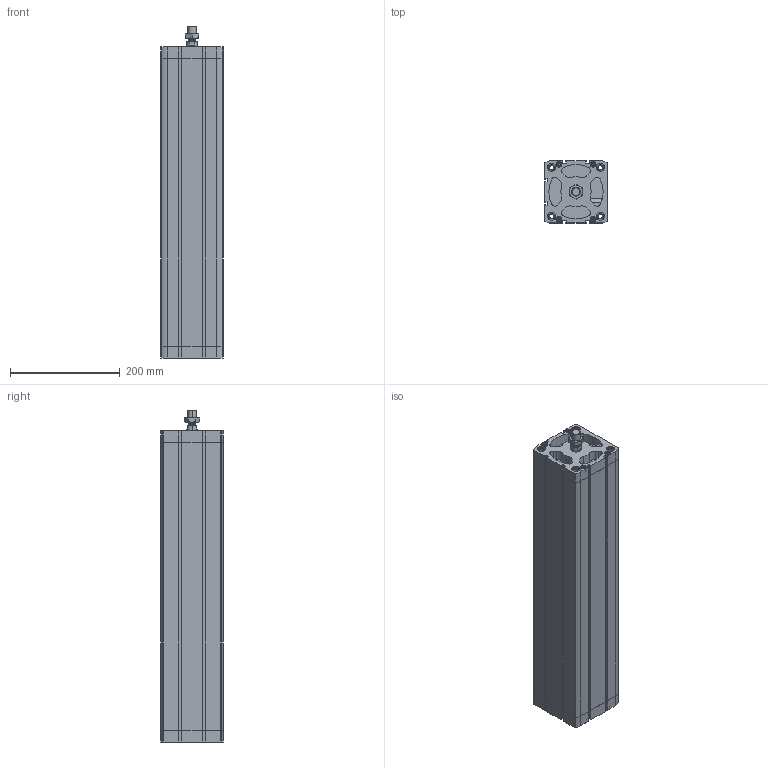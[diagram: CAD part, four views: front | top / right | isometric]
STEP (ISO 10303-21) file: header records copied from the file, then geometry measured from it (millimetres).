
FILE_DESCRIPTION (( 'STEP AP203' ), '1' );
FILE_NAME ('CCN100-500M.STEP', '2020-06-05T18:11:10', ( '' ), ( '' ), 'SwSTEP 2.0', 'SolidWorks 2019', '' );
FILE_SCHEMA (( 'CONFIG_CONTROL_DESIGN' ));
Length unit declared in the file: millimetre
Products named in the file (1): CCN100-500M
Bounding box: 113.5 x 113.5 x 604.8 mm (x, y, z)
Volume: 3062972.7 mm3; surface area: 642440.4 mm2
Topology: 3 solids, 3 shells, 648 faces, 1673 edges, 1068 vertices
Faces by surface type: plane 292, cylinder 272, cone 80, torus 4
Entity records: 21246 total; most frequent: CARTESIAN_POINT 4984, DIRECTION 3541, ORIENTED_EDGE 3314, EDGE_CURVE 1657, AXIS2_PLACEMENT_3D 1319, VERTEX_POINT 1068, LINE 903, VECTOR 903
